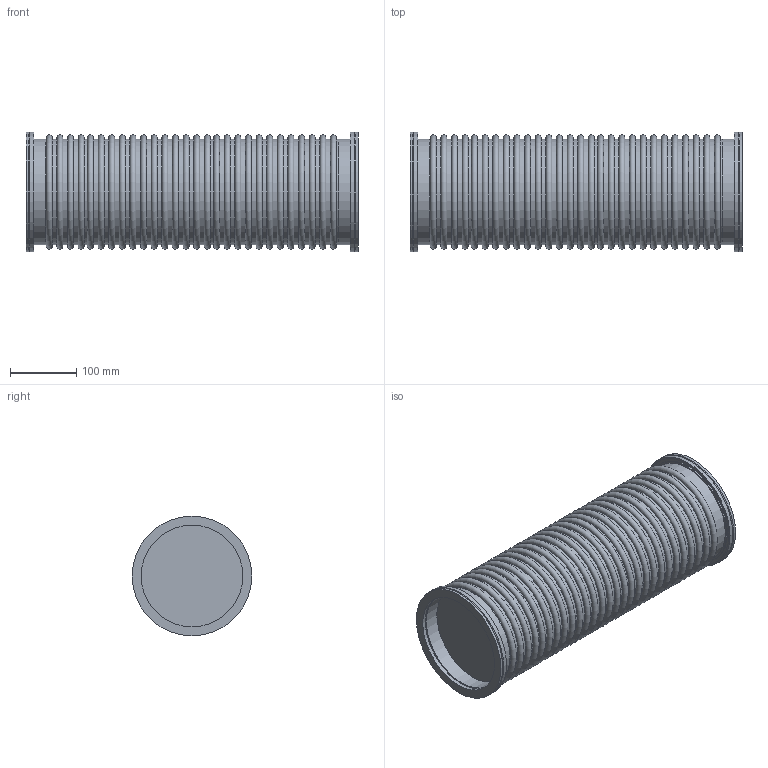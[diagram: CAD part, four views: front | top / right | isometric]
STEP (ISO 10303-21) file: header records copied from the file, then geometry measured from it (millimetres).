
FILE_DESCRIPTION( ( 'Unknown' ), '1' );
FILE_NAME( 'X:/Daten ( aktueller Bestand )/Projekte und Zeichnungen/Solid Edge/STP-Dateien/ISO-K Teile und Zubehör/69134U.stp', 'Unknown', ( 'Unknown' ), ( 'Unknown' ), 'PSStep 14.0', 'Unknown', ' ' );
FILE_SCHEMA( ( 'AUTOMOTIVE_DESIGN { 1 0 10303 214 1 1 1 1 }' ) );
Length unit declared in the file: millimetre
Products named in the file (8): 6513; 6523-1; 6913-1; Assem2_0; Assem1
Assembly tree (8 placements, depth 4):
  Assem1
    6913-1
      6913-1
    Assem2_0  x2
      6523-1
        6523-1
      6513
        6513
Bounding box: 500 x 180 x 180 mm (x, y, z)
Volume: 9655390.2 mm3; surface area: 523156.9 mm2
Topology: 5 solids, 5 shells, 93 faces, 170 edges, 93 vertices
Faces by surface type: cylinder 45, torus 30, plane 16, cone 2
Full cylindrical faces by diameter (mm): 153 x4, 159 x31, 160 x2, 165 x2, 175 x2, 180 x4
Entity records: 2304 total; most frequent: DIRECTION 328, CARTESIAN_POINT 239, AXIS2_PLACEMENT_3D 164, EDGE_LOOP 150, ORIENTED_EDGE 150, FACE_OUTER_BOUND 142, STYLED_ITEM 76, PRESENTATION_STYLE_ASSIGNMENT 76
